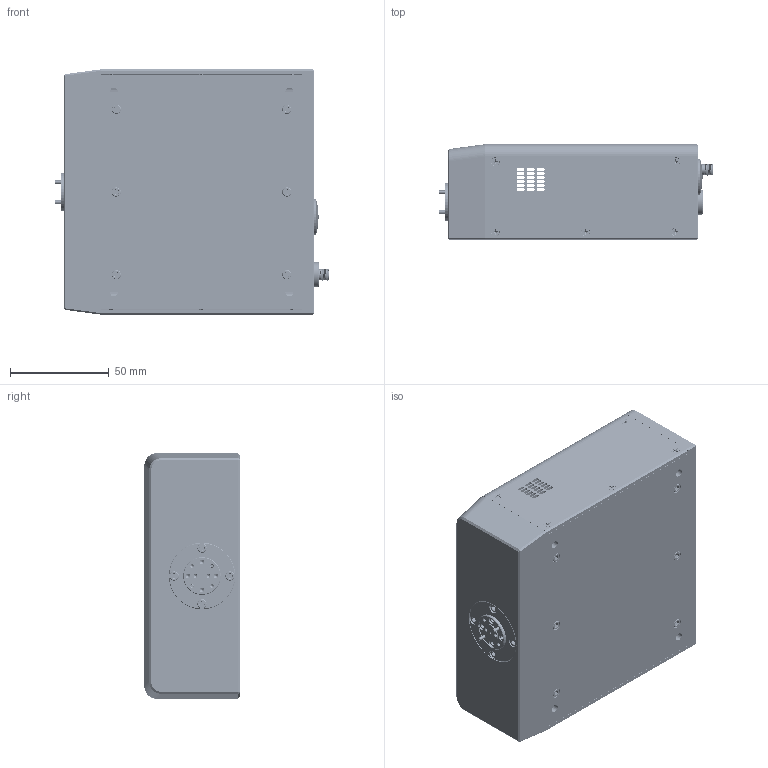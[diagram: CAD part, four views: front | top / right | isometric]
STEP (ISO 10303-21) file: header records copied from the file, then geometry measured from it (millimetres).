
FILE_DESCRIPTION (( 'STEP AP214' ), '1' );
FILE_NAME ('TC-G-A-IDP Mountable.STEP', '2026-01-02T23:06:48', ( '' ), ( '' ), 'SwSTEP 2.0', 'SolidWorks 2021', '' );
FILE_SCHEMA (( 'AUTOMOTIVE_DESIGN' ));
Length unit declared in the file: inch
Products named in the file (1): TC-G-A-IDP Mountable
Bounding box: 139.21 x 48.26 x 124.32 mm (x, y, z)
Volume: 263225.6 mm3; surface area: 137627.1 mm2
Topology: 36 solids, 36 shells, 2916 faces, 7876 edges, 4998 vertices
Faces by surface type: cylinder 1530, plane 823, cone 494, bspline 62, torus 4, sphere 3
Entity records: 159198 total; most frequent: CARTESIAN_POINT 53973, ORIENTED_EDGE 15400, DIRECTION 12580, EDGE_CURVE 7700, VERTEX_POINT 4997, AXIS2_PLACEMENT_3D 4614, LINE 3352, VECTOR 3352
